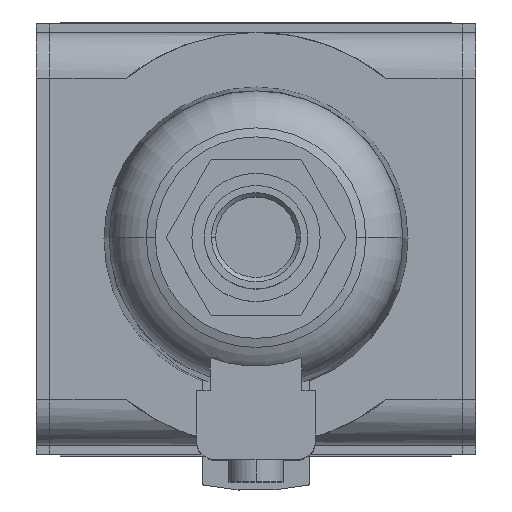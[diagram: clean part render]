
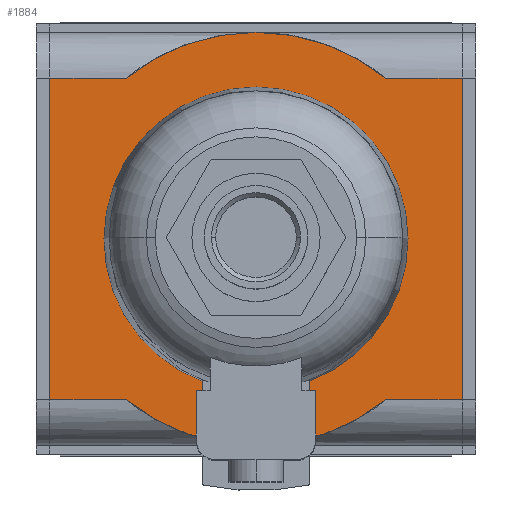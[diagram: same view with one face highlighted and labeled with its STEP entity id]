
A CAD part, top view. The second image highlights one B-rep face of the part: STEP entity #1884.
In plain terms, the highlighted planar face has unit normal (0, 0, 1).
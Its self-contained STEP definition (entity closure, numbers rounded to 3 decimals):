
#593=CARTESIAN_POINT('',(-14.163,17.56,26.));
#600=CARTESIAN_POINT('',(14.163,17.56,26.));
#624=CARTESIAN_POINT('',(0.,0.,26.));
#625=DIRECTION('',(0.,0.,1.));
#626=DIRECTION('',(0.628,0.778,0.));
#627=AXIS2_PLACEMENT_3D('',#624,#625,#626);
#629=CARTESIAN_POINT('',(0.,0.,26.));
#630=DIRECTION('',(0.,0.,1.));
#631=DIRECTION('',(-0.628,-0.778,0.));
#632=AXIS2_PLACEMENT_3D('',#629,#630,#631);
#634=DIRECTION('',(0.,-1.,0.));
#635=VECTOR('',#634,35.12);
#636=CARTESIAN_POINT('',(22.5,17.56,26.));
#637=LINE('',#636,#635);
#638=DIRECTION('',(0.,-1.,0.));
#639=VECTOR('',#638,35.12);
#640=CARTESIAN_POINT('',(-22.5,17.56,26.));
#641=LINE('',#640,#639);
#642=DIRECTION('',(1.,0.,0.));
#643=VECTOR('',#642,8.337);
#644=CARTESIAN_POINT('',(-22.5,17.56,26.));
#645=LINE('',#644,#643);
#646=DIRECTION('',(1.,0.,0.));
#647=VECTOR('',#646,8.337);
#648=CARTESIAN_POINT('',(14.163,17.56,26.));
#649=LINE('',#648,#647);
#655=DIRECTION('',(1.,0.,0.));
#656=VECTOR('',#655,8.337);
#657=CARTESIAN_POINT('',(-22.5,-17.56,26.));
#658=LINE('',#657,#656);
#659=CARTESIAN_POINT('',(-14.163,-17.56,26.));
#702=CARTESIAN_POINT('',(14.163,-17.56,26.));
#704=DIRECTION('',(1.,0.,0.));
#705=VECTOR('',#704,8.337);
#706=CARTESIAN_POINT('',(14.163,-17.56,26.));
#707=LINE('',#706,#705);
#865=VERTEX_POINT('',#593);
#866=VERTEX_POINT('',#600);
#867=VERTEX_POINT('',#659);
#869=VERTEX_POINT('',#702);
#884=CARTESIAN_POINT('',(-22.5,17.56,26.));
#885=VERTEX_POINT('',#884);
#886=CARTESIAN_POINT('',(-22.5,-17.56,26.));
#887=VERTEX_POINT('',#886);
#948=CARTESIAN_POINT('',(22.5,17.56,26.));
#949=VERTEX_POINT('',#948);
#950=CARTESIAN_POINT('',(22.5,-17.56,26.));
#951=VERTEX_POINT('',#950);
#1867=CARTESIAN_POINT('',(-24.,17.56,26.));
#1868=DIRECTION('',(0.,0.,1.));
#1869=DIRECTION('',(0.,-1.,0.));
#1870=AXIS2_PLACEMENT_3D('',#1867,#1868,#1869);
#1871=PLANE('',#1870);
#1872=ORIENTED_EDGE('',*,*,#1054,.T.);
#1874=ORIENTED_EDGE('',*,*,#1873,.F.);
#1875=ORIENTED_EDGE('',*,*,#1858,.F.);
#1877=ORIENTED_EDGE('',*,*,#1876,.F.);
#1878=ORIENTED_EDGE('',*,*,#1629,.F.);
#1879=ORIENTED_EDGE('',*,*,#1822,.T.);
#1880=ORIENTED_EDGE('',*,*,#1848,.F.);
#1881=ORIENTED_EDGE('',*,*,#1833,.T.);
#1882=EDGE_LOOP('',(#1872,#1874,#1875,#1877,#1878,#1879,#1880,#1881));
#1883=FACE_OUTER_BOUND('',#1882,.F.);
#1884=ADVANCED_FACE('',(#1883),#1871,.T.);
#628=CIRCLE('',#627,22.56);
#633=CIRCLE('',#632,22.56);
#1054=EDGE_CURVE('',#949,#951,#637,.T.);
#1629=EDGE_CURVE('',#885,#887,#641,.T.);
#1822=EDGE_CURVE('',#885,#865,#645,.T.);
#1833=EDGE_CURVE('',#866,#949,#649,.T.);
#1848=EDGE_CURVE('',#866,#865,#628,.T.);
#1858=EDGE_CURVE('',#867,#869,#633,.T.);
#1873=EDGE_CURVE('',#869,#951,#707,.T.);
#1876=EDGE_CURVE('',#887,#867,#658,.T.);
